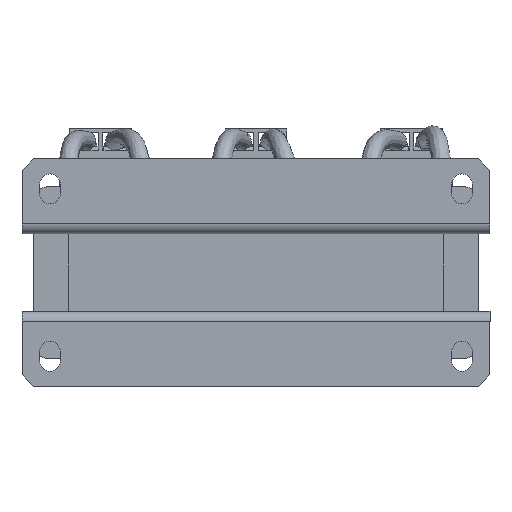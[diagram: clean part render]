
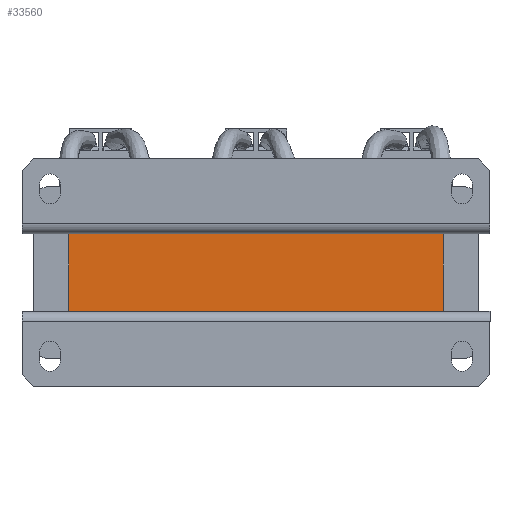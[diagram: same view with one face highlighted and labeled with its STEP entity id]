
A CAD part, front view. The second image highlights one B-rep face of the part: STEP entity #33560.
In plain terms, the highlighted planar face has unit normal (0, -1, 0).
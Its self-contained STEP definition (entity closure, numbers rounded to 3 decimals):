
#1654=LINE('',#51640,#5100);
#1713=LINE('',#51800,#5159);
#1823=LINE('',#52091,#5269);
#1828=LINE('',#52099,#5274);
#5100=VECTOR('',#40394,10.);
#5159=VECTOR('',#40551,10.);
#5269=VECTOR('',#40841,10.);
#5274=VECTOR('',#40852,10.);
#7927=PLANE('',#35775);
#9913=FACE_OUTER_BOUND('',#11774,.T.);
#11774=EDGE_LOOP('',(#25230,#25231,#25232,#25233));
#14999=VERTEX_POINT('',#51629);
#15003=VERTEX_POINT('',#51638);
#15051=VERTEX_POINT('',#51789);
#15055=VERTEX_POINT('',#51798);
#18606=EDGE_CURVE('',#15003,#14999,#1654,.T.);
#18684=EDGE_CURVE('',#15055,#15051,#1713,.T.);
#18830=EDGE_CURVE('',#15055,#14999,#1823,.T.);
#18835=EDGE_CURVE('',#15003,#15051,#1828,.T.);
#25230=ORIENTED_EDGE('',*,*,#18835,.T.);
#25231=ORIENTED_EDGE('',*,*,#18684,.F.);
#25232=ORIENTED_EDGE('',*,*,#18830,.T.);
#25233=ORIENTED_EDGE('',*,*,#18606,.F.);
#33560=ADVANCED_FACE('',(#9913),#7927,.T.);
#35775=AXIS2_PLACEMENT_3D('',#52144,#40903,#40904);
#40394=DIRECTION('',(-1.,0.,0.));
#40551=DIRECTION('',(1.,0.,0.));
#40841=DIRECTION('',(0.,0.,-1.));
#40852=DIRECTION('',(0.,0.,1.));
#40903=DIRECTION('center_axis',(0.,-1.,0.));
#40904=DIRECTION('ref_axis',(1.,0.,0.));
#51629=CARTESIAN_POINT('',(-50.,-50.55,-10.35));
#51638=CARTESIAN_POINT('',(50.,-50.55,-10.35));
#51640=CARTESIAN_POINT('',(50.,-50.55,-10.35));
#51789=CARTESIAN_POINT('',(50.,-50.55,10.35));
#51798=CARTESIAN_POINT('',(-50.,-50.55,10.35));
#51800=CARTESIAN_POINT('',(50.,-50.55,10.35));
#52091=CARTESIAN_POINT('',(-50.,-50.55,0.));
#52099=CARTESIAN_POINT('',(50.,-50.55,0.));
#52144=CARTESIAN_POINT('Origin',(-50.,-50.55,0.));
